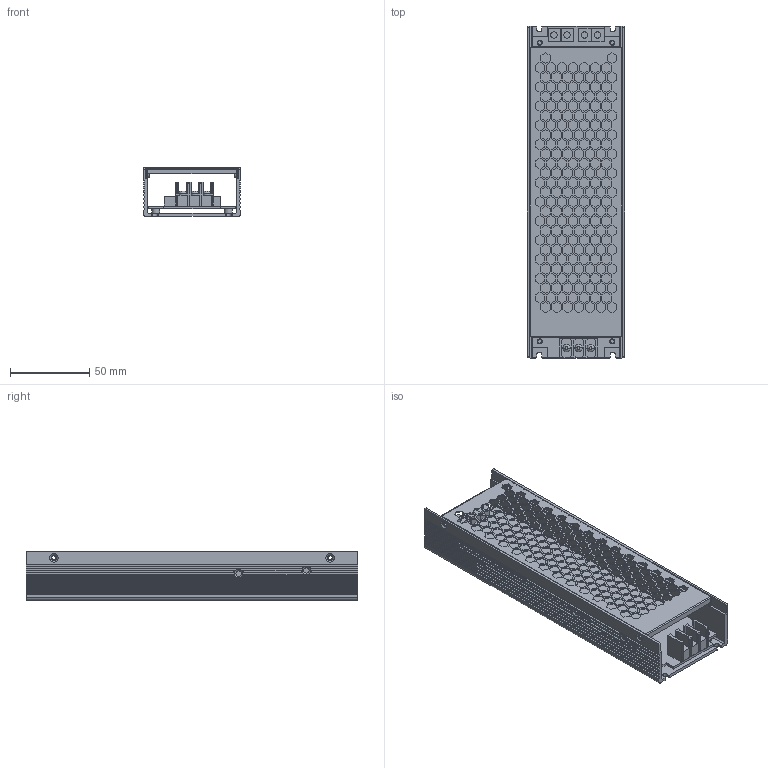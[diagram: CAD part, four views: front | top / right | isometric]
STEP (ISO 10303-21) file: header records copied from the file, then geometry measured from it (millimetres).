
FILE_DESCRIPTION(('Creo Elements/Direct Modeling STEP Export'),'2;1');
FILE_NAME('HSP-200.stp','2016-01-05T 9:11:47',(''),(''),'PTC Creo Elements/Direct Modeling STEP processor for AP214 (Solid Model)','PTC Creo Elements/Direct Modeling 19.0 09-May-2014 (C) Parametric Technology GmbH','');
FILE_SCHEMA(('AUTOMOTIVE_DESIGN { 1 0 10303 214 1 1 1 1 }'));
Length unit declared in the file: millimetre
Products named in the file (1): HSP-200A-D-3
Bounding box: 62 x 210 x 31 mm (x, y, z)
Volume: 77509.1 mm3; surface area: 97224.1 mm2
Topology: 1 solids, 4 shells, 1586 faces, 4661 edges, 3097 vertices
Faces by surface type: plane 1396, cylinder 152, cone 24, torus 14
Entity records: 51383 total; most frequent: ORIENTED_EDGE 9330, CARTESIAN_POINT 9037, DIRECTION 7697, EDGE_CURVE 4661, VECTOR 4183, LINE 4183, VERTEX_POINT 3097, EDGE_LOOP 2032
